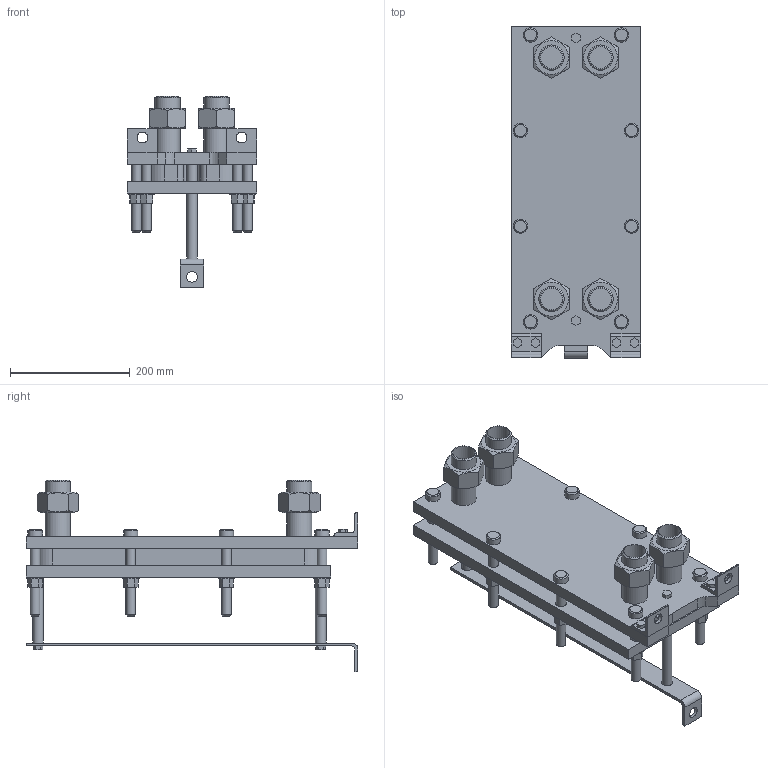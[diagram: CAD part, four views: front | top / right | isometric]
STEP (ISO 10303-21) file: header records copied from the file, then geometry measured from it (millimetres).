
FILE_DESCRIPTION(/* description */ (''),/* implementation_level */ '2;1');
FILE_NAME(/* name */ 'C:\Users\zhuro\Desktop\ENCO\TO\ЭН-004\ЭН-0,5-004-9-1.stp',/* time_stamp */ '2022-06-06T10:44:41+03:00',/* author */ ('zhuro'),/* organization */ (''),/* preprocessor_version */ 'ST-DEVELOPER v18.1',/* originating_system */ 'Autodesk Inventor 2022',/* authorisation */ '');
FILE_SCHEMA (('AUTOMOTIVE_DESIGN { 1 0 10303 214 3 1 1 }'));
Length unit declared in the file: millimetre
Products named in the file (1): ЭН-0,5-004-9-1
Bounding box: 216 x 555 x 320.2 mm (x, y, z)
Volume: 7527454.9 mm3; surface area: 1019602.9 mm2
Topology: 40 solids, 40 shells, 403 faces, 865 edges, 574 vertices
Faces by surface type: plane 272, cylinder 103, cone 28
Full cylindrical faces by diameter (mm): 10 x4, 16 x16, 18 x29, 20 x2, 24 x8, 28 x8, 36.3 x5, 42.3 x9
Entity records: 11137 total; most frequent: CARTESIAN_POINT 1939, DIRECTION 1879, ORIENTED_EDGE 1730, EDGE_CURVE 865, AXIS2_PLACEMENT_3D 658, VERTEX_POINT 574, LINE 563, VECTOR 563
